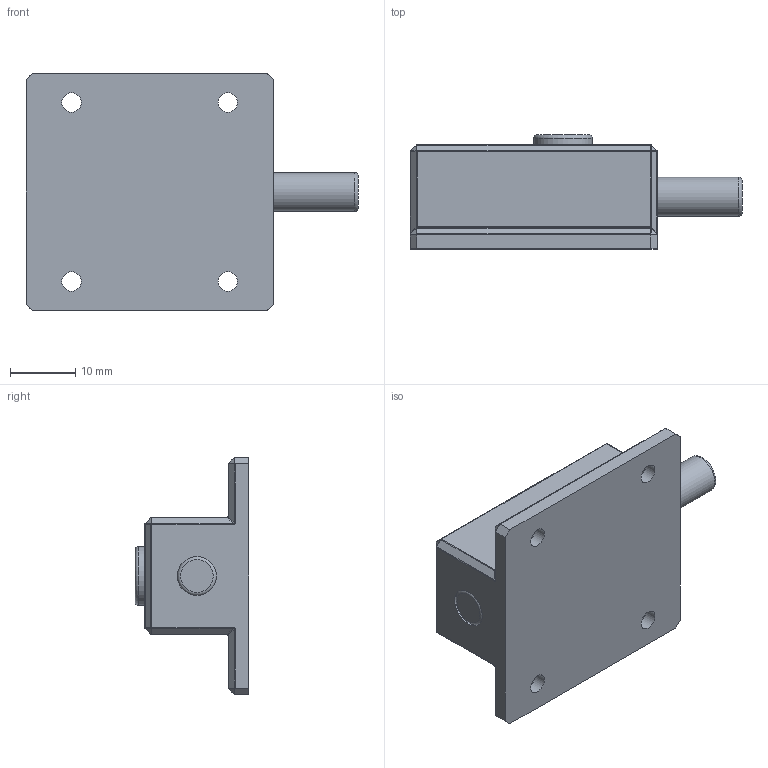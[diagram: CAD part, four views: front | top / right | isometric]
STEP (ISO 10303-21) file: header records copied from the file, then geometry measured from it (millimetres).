
FILE_DESCRIPTION(/* description */ (''),/* implementation_level */ '2;1');
FILE_NAME(/* name */ '\\NAS\db20\ODS-404\DR_ODS-404.stp',/* time_stamp */ '2017-09-01T15:46:59+09:00',/* author */ ('user'),/* organization */ (''),/* preprocessor_version */ 'ST-DEVELOPER v15.6',/* originating_system */ 'Autodesk Inventor 2015',/* authorisation */ '');
FILE_SCHEMA (('AUTOMOTIVE_DESIGN { 1 0 10303 214 3 1 1 }'));
Length unit declared in the file: millimetre
Products named in the file (3): DR_ODS-404-PIN; DR_ODS-404-P; DR_ODS-404
Bounding box: 51 x 17.5 x 36.5 mm (x, y, z)
Volume: 13384.7 mm3; surface area: 6251 mm2
Topology: 2 solids, 2 shells, 159 faces, 379 edges, 225 vertices
Faces by surface type: cylinder 65, bspline 48, plane 39, cone 4, torus 3
Full cylindrical faces by diameter (mm): 3 x4, 6 x2, 9 x1
Entity records: 5347 total; most frequent: CARTESIAN_POINT 1722, DIRECTION 758, ORIENTED_EDGE 722, EDGE_CURVE 361, AXIS2_PLACEMENT_3D 313, VERTEX_POINT 221, EDGE_LOOP 184, FACE_OUTER_BOUND 159
